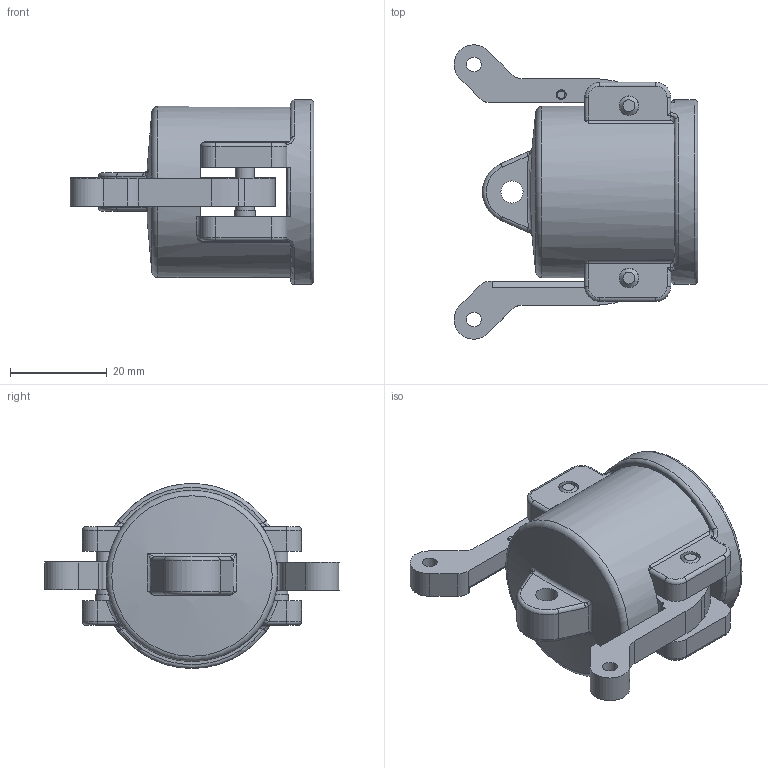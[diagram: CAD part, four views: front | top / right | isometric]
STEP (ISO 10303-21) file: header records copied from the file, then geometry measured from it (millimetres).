
FILE_DESCRIPTION(/* description */ ('Alibre Inc.'),/* implementation_level */ '2;1');
FILE_NAME(/* name */ 'export0',/* time_stamp */ '2016-03-21T10:12:36-04:00',/* author */ (''),/* organization */ (''),/* preprocessor_version */ 'ST-DEVELOPER v14',/* originating_system */ 'Alibre',/* authorisation */ '');
FILE_SCHEMA (('CONFIG_CONTROL_DESIGN'));
Length unit declared in the file: centimetre
Products named in the file (5): ID_1
Bounding box: 50.28 x 60.68 x 38.1 mm (x, y, z)
Volume: 25988.8 mm3; surface area: 14169.9 mm2
Topology: 6 solids, 6 shells, 176 faces, 442 edges, 278 vertices
Faces by surface type: plane 68, cylinder 66, torus 23, bspline 14, cone 4, sphere 1
Full cylindrical faces by diameter (mm): 3.048 x2, 3.962 x2, 4.064 x4, 4.216 x2, 4.242 x2, 4.572 x1, 17.272 x1, 24.892 x1, 26.924 x1, 27.686 x1, 35.306 x1, 38.1 x1
Entity records: 7039 total; most frequent: CARTESIAN_POINT 3138, ORIENTED_EDGE 700, DIRECTION 646, EDGE_CURVE 350, AXIS2_PLACEMENT_3D 284, VERTEX_POINT 229, EDGE_LOOP 187, FACE_BOUND 187
